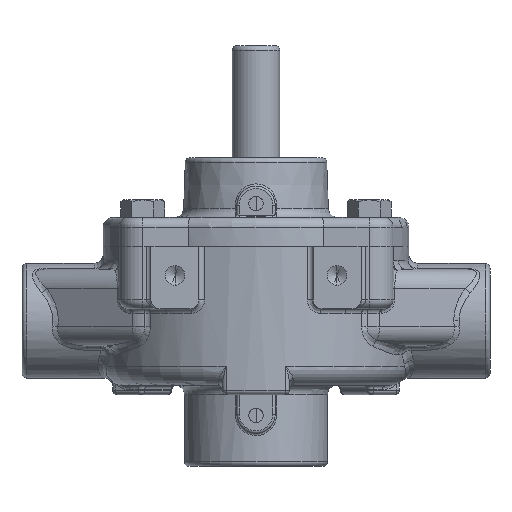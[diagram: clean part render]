
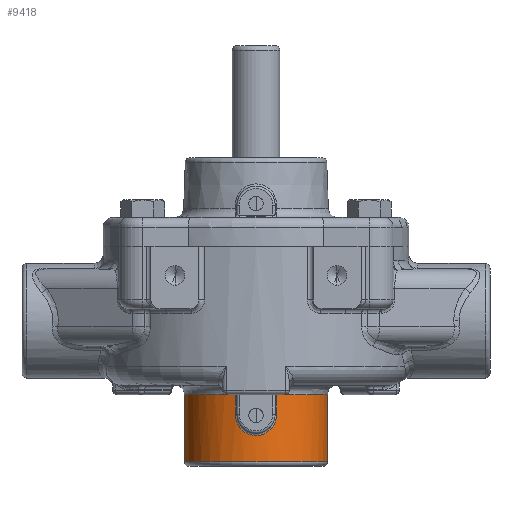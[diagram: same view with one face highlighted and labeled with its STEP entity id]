
A CAD part, front view. The second image highlights one B-rep face of the part: STEP entity #9418.
In plain terms, the highlighted cylindrical face has radius 23.8 mm (diameter 47.6 mm), a partial arc.
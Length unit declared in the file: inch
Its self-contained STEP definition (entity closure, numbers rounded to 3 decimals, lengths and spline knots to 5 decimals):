
#7163 = EDGE_CURVE ( 'NONE', #13221, #13222, #32153, .T. ) ;
#7167 = EDGE_CURVE ( 'NONE', #13257, #13761, #32156, .T. ) ;
#7169 = EDGE_CURVE ( 'NONE', #13761, #13762, #23486, .T. ) ;
#7173 = EDGE_CURVE ( 'NONE', #13762, #13264, #32162, .T. ) ;
#7386 = EDGE_CURVE ( 'NONE', #13264, #13263, #32259, .T. ) ;
#7544 = EDGE_CURVE ( 'NONE', #13221, #13263, #32348, .T. ) ;
#7552 = EDGE_CURVE ( 'NONE', #13222, #13260, #32351, .T. ) ;
#7562 = EDGE_CURVE ( 'NONE', #13260, #13257, #32352, .T. ) ;
#9418 = ADVANCED_FACE ( 'NONE', ( #9436 ), #9443, .T. ) ;
#9436 = FACE_OUTER_BOUND ( 'NONE', #12261, .T. ) ;
#9443 = CYLINDRICAL_SURFACE ( 'NONE', #10634, 0.937 ) ;
#10634 = AXIS2_PLACEMENT_3D ( 'NONE', #22106, #22102, #22097 ) ;
#12261 = EDGE_LOOP ( 'NONE', ( #13582, #13583, #13584, #13585, #13586, #13587, #13588, #13589 ) ) ;
#13221 = VERTEX_POINT ( 'NONE', #27755 ) ;
#13222 = VERTEX_POINT ( 'NONE', #27756 ) ;
#13257 = VERTEX_POINT ( 'NONE', #27791 ) ;
#13260 = VERTEX_POINT ( 'NONE', #27794 ) ;
#13263 = VERTEX_POINT ( 'NONE', #27797 ) ;
#13264 = VERTEX_POINT ( 'NONE', #27798 ) ;
#13582 = ORIENTED_EDGE ( 'NONE', *, *, #7544, .F. ) ;
#13583 = ORIENTED_EDGE ( 'NONE', *, *, #7163, .T. ) ;
#13584 = ORIENTED_EDGE ( 'NONE', *, *, #7552, .T. ) ;
#13585 = ORIENTED_EDGE ( 'NONE', *, *, #7562, .T. ) ;
#13586 = ORIENTED_EDGE ( 'NONE', *, *, #7167, .T. ) ;
#13587 = ORIENTED_EDGE ( 'NONE', *, *, #7169, .T. ) ;
#13588 = ORIENTED_EDGE ( 'NONE', *, *, #7173, .T. ) ;
#13589 = ORIENTED_EDGE ( 'NONE', *, *, #7386, .T. ) ;
#13761 = VERTEX_POINT ( 'NONE', #27833 ) ;
#13762 = VERTEX_POINT ( 'NONE', #27834 ) ;
#22097 = DIRECTION ( 'NONE',  ( 1., 0., 0. ) ) ;
#22102 = DIRECTION ( 'NONE',  ( 0., 0., 1. ) ) ;
#22106 = CARTESIAN_POINT ( 'NONE',  ( 0., 0.135, 3.14445 ) ) ;
#23486 = B_SPLINE_CURVE_WITH_KNOTS ( 'NONE', 3,
 ( #31598, #31590, #31589, #31600, #31601, #31602, #31603, #31604, #31605, #31606, #31607, #31608, #31609, #31610, #31611, #31612, #31613, #31614, #31615, #31616, #31617, #31618, #31619, #31620, #31621, #31622, #31623, #31624, #31625, #31626, #31627, #31628, #31629, #31630, #31631, #31632, #31633, #31634, #31635, #31636, #31637, #31638, #31639, #31640, #31641, #31642 ),
 .UNSPECIFIED., .F., .F.,
 ( 4, 2, 2, 2, 2, 2, 2, 2, 2, 2, 2, 2, 2, 2, 2, 2, 2, 2, 2, 2, 2, 2, 4 ),
 ( 0., 0.00137, 0.00206, 0.00275, 0.00412, 0.0055, 0.00687, 0.00756, 0.00825, 0.00962, 0.011, 0.01168, 0.01237, 0.01375, 0.01443, 0.01512, 0.01581, 0.01649, 0.01787, 0.01924, 0.02062, 0.0213, 0.02199 ),
 .UNSPECIFIED. ) ;
#27755 = CARTESIAN_POINT ( 'NONE',  ( -0.937, 0.135, 0.06 ) ) ;
#27756 = CARTESIAN_POINT ( 'NONE',  ( 0.937, 0.135, 0.06 ) ) ;
#27791 = CARTESIAN_POINT ( 'NONE',  ( 0.27131, -0.76186, 0.9375 ) ) ;
#27794 = CARTESIAN_POINT ( 'NONE',  ( 0.937, 0.135, 0.9375 ) ) ;
#27797 = CARTESIAN_POINT ( 'NONE',  ( -0.937, 0.135, 0.9375 ) ) ;
#27798 = CARTESIAN_POINT ( 'NONE',  ( -0.27131, -0.76186, 0.9375 ) ) ;
#27833 = CARTESIAN_POINT ( 'NONE',  ( 0.27131, -0.76186, 0.683 ) ) ;
#27834 = CARTESIAN_POINT ( 'NONE',  ( -0.27131, -0.76186, 0.683 ) ) ;
#29539 = AXIS2_PLACEMENT_3D ( 'NONE', #31592, #31593, #31594 ) ;
#29579 = AXIS2_PLACEMENT_3D ( 'NONE', #33301, #33302, #33303 ) ;
#29622 = AXIS2_PLACEMENT_3D ( 'NONE', #33740, #33741, #33742 ) ;
#31589 = CARTESIAN_POINT ( 'NONE',  ( 0.26959, -0.76239, 0.6467 ) ) ;
#31590 = CARTESIAN_POINT ( 'NONE',  ( 0.27131, -0.76186, 0.6647 ) ) ;
#31592 = CARTESIAN_POINT ( 'NONE',  ( 0., 0.135, 0.06 ) ) ;
#31593 = DIRECTION ( 'NONE',  ( 0., 0., 1. ) ) ;
#31594 = DIRECTION ( 'NONE',  ( 1., 0., 0. ) ) ;
#31595 = CARTESIAN_POINT ( 'NONE',  ( 0.27131, -0.76186, 3.14445 ) ) ;
#31596 = DIRECTION ( 'NONE',  ( 0., 0., -1. ) ) ;
#31598 = CARTESIAN_POINT ( 'NONE',  ( 0.27131, -0.76186, 0.683 ) ) ;
#31600 = CARTESIAN_POINT ( 'NONE',  ( 0.26454, -0.76388, 0.62016 ) ) ;
#31601 = CARTESIAN_POINT ( 'NONE',  ( 0.26244, -0.7645, 0.61138 ) ) ;
#31602 = CARTESIAN_POINT ( 'NONE',  ( 0.25739, -0.76596, 0.59398 ) ) ;
#31603 = CARTESIAN_POINT ( 'NONE',  ( 0.25442, -0.7668, 0.58533 ) ) ;
#31604 = CARTESIAN_POINT ( 'NONE',  ( 0.24443, -0.76958, 0.56013 ) ) ;
#31605 = CARTESIAN_POINT ( 'NONE',  ( 0.23627, -0.77178, 0.54418 ) ) ;
#31606 = CARTESIAN_POINT ( 'NONE',  ( 0.21698, -0.77658, 0.51393 ) ) ;
#31607 = CARTESIAN_POINT ( 'NONE',  ( 0.20573, -0.77922, 0.49956 ) ) ;
#31608 = CARTESIAN_POINT ( 'NONE',  ( 0.18105, -0.78443, 0.47367 ) ) ;
#31609 = CARTESIAN_POINT ( 'NONE',  ( 0.16754, -0.78702, 0.46199 ) ) ;
#31610 = CARTESIAN_POINT ( 'NONE',  ( 0.14544, -0.79067, 0.44645 ) ) ;
#31611 = CARTESIAN_POINT ( 'NONE',  ( 0.13773, -0.79186, 0.44158 ) ) ;
#31612 = CARTESIAN_POINT ( 'NONE',  ( 0.12202, -0.79405, 0.43275 ) ) ;
#31613 = CARTESIAN_POINT ( 'NONE',  ( 0.11399, -0.79508, 0.42874 ) ) ;
#31614 = CARTESIAN_POINT ( 'NONE',  ( 0.08935, -0.79788, 0.41798 ) ) ;
#31615 = CARTESIAN_POINT ( 'NONE',  ( 0.07217, -0.79939, 0.41243 ) ) ;
#31616 = CARTESIAN_POINT ( 'NONE',  ( 0.03642, -0.80146, 0.4049 ) ) ;
#31617 = CARTESIAN_POINT ( 'NONE',  ( 0.01845, -0.80199, 0.40303 ) ) ;
#31618 = CARTESIAN_POINT ( 'NONE',  ( -0.00863, -0.802, 0.40299 ) ) ;
#31619 = CARTESIAN_POINT ( 'NONE',  ( -0.01768, -0.80188, 0.40344 ) ) ;
#31620 = CARTESIAN_POINT ( 'NONE',  ( -0.03582, -0.80136, 0.40529 ) ) ;
#31621 = CARTESIAN_POINT ( 'NONE',  ( -0.04487, -0.80097, 0.4067 ) ) ;
#31622 = CARTESIAN_POINT ( 'NONE',  ( -0.07145, -0.79944, 0.41224 ) ) ;
#31623 = CARTESIAN_POINT ( 'NONE',  ( -0.08861, -0.79795, 0.4177 ) ) ;
#31624 = CARTESIAN_POINT ( 'NONE',  ( -0.11354, -0.79513, 0.42852 ) ) ;
#31625 = CARTESIAN_POINT ( 'NONE',  ( -0.12171, -0.7941, 0.43258 ) ) ;
#31626 = CARTESIAN_POINT ( 'NONE',  ( -0.13743, -0.7919, 0.4414 ) ) ;
#31627 = CARTESIAN_POINT ( 'NONE',  ( -0.14502, -0.79074, 0.44618 ) ) ;
#31628 = CARTESIAN_POINT ( 'NONE',  ( -0.1597, -0.78832, 0.45646 ) ) ;
#31629 = CARTESIAN_POINT ( 'NONE',  ( -0.16677, -0.78706, 0.46195 ) ) ;
#31630 = CARTESIAN_POINT ( 'NONE',  ( -0.18042, -0.78449, 0.47368 ) ) ;
#31631 = CARTESIAN_POINT ( 'NONE',  ( -0.18701, -0.78317, 0.47993 ) ) ;
#31632 = CARTESIAN_POINT ( 'NONE',  ( -0.20566, -0.77924, 0.49946 ) ) ;
#31633 = CARTESIAN_POINT ( 'NONE',  ( -0.21669, -0.77665, 0.51354 ) ) ;
#31634 = CARTESIAN_POINT ( 'NONE',  ( -0.23604, -0.77184, 0.54376 ) ) ;
#31635 = CARTESIAN_POINT ( 'NONE',  ( -0.24439, -0.76959, 0.56005 ) ) ;
#31636 = CARTESIAN_POINT ( 'NONE',  ( -0.25767, -0.7659, 0.59348 ) ) ;
#31637 = CARTESIAN_POINT ( 'NONE',  ( -0.26271, -0.76442, 0.61075 ) ) ;
#31638 = CARTESIAN_POINT ( 'NONE',  ( -0.26785, -0.7629, 0.63748 ) ) ;
#31639 = CARTESIAN_POINT ( 'NONE',  ( -0.26915, -0.76251, 0.64656 ) ) ;
#31640 = CARTESIAN_POINT ( 'NONE',  ( -0.27088, -0.76199, 0.66473 ) ) ;
#31641 = CARTESIAN_POINT ( 'NONE',  ( -0.27131, -0.76186, 0.67385 ) ) ;
#31642 = CARTESIAN_POINT ( 'NONE',  ( -0.27131, -0.76186, 0.683 ) ) ;
#31645 = CARTESIAN_POINT ( 'NONE',  ( -0.27131, -0.76186, 3.14445 ) ) ;
#31646 = DIRECTION ( 'NONE',  ( 0., 0., 1. ) ) ;
#32153 = CIRCLE ( 'NONE', #29539, 0.937 ) ;
#32156 = LINE ( 'NONE', #31595, #32160 ) ;
#32160 = VECTOR ( 'NONE', #31596, 39.37008 ) ;
#32162 = LINE ( 'NONE', #31645, #32164 ) ;
#32164 = VECTOR ( 'NONE', #31646, 39.37008 ) ;
#32259 = CIRCLE ( 'NONE', #29579, 0.937 ) ;
#32348 = LINE ( 'NONE', #33661, #32350 ) ;
#32350 = VECTOR ( 'NONE', #33654, 39.37008 ) ;
#32351 = LINE ( 'NONE', #33680, #32353 ) ;
#32352 = CIRCLE ( 'NONE', #29622, 0.937 ) ;
#32353 = VECTOR ( 'NONE', #33681, 39.37008 ) ;
#33301 = CARTESIAN_POINT ( 'NONE',  ( 0., 0.135, 0.9375 ) ) ;
#33302 = DIRECTION ( 'NONE',  ( 0., 0., -1. ) ) ;
#33303 = DIRECTION ( 'NONE',  ( 1., 0., 0. ) ) ;
#33654 = DIRECTION ( 'NONE',  ( 0., 0., 1. ) ) ;
#33661 = CARTESIAN_POINT ( 'NONE',  ( -0.937, 0.135, 3.14445 ) ) ;
#33680 = CARTESIAN_POINT ( 'NONE',  ( 0.937, 0.135, 3.14445 ) ) ;
#33681 = DIRECTION ( 'NONE',  ( 0., 0., 1. ) ) ;
#33740 = CARTESIAN_POINT ( 'NONE',  ( 0., 0.135, 0.9375 ) ) ;
#33741 = DIRECTION ( 'NONE',  ( 0., 0., -1. ) ) ;
#33742 = DIRECTION ( 'NONE',  ( 1., 0., 0. ) ) ;
